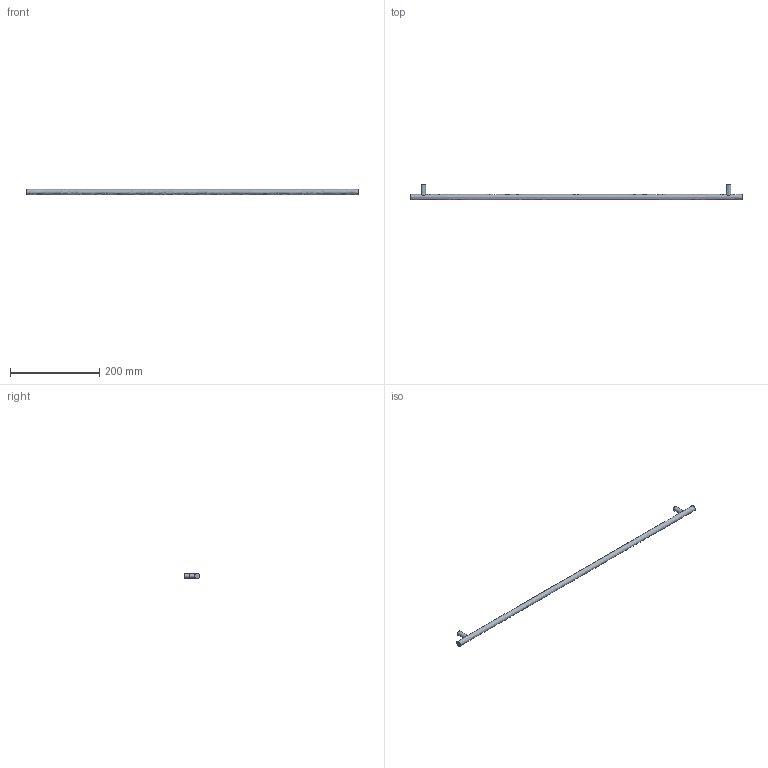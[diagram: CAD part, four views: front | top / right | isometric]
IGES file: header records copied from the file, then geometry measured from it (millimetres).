
Start section: Data from Parasolid IGES Translator 15.0.47, Copyright(c) 2006 Siemens P LM Software. All Rights Reserved.
Global section: file name: 9069799.igs; native system:  By UGS Corp.; preprocessor: XPlus GENERIC/IGES 3.0; author: Noname; organization: Noname; date: 20140122.183431; units: millimetre
Bounding box: 744 x 35 x 12 mm (x, y, z)
Surface area: 30154.9 mm2 (no closed solid volume)
Topology: 0 solids, 0 shells, 11 faces, 30 edges, 20 vertices
Faces by surface type: extrusion 6, revolution 5
